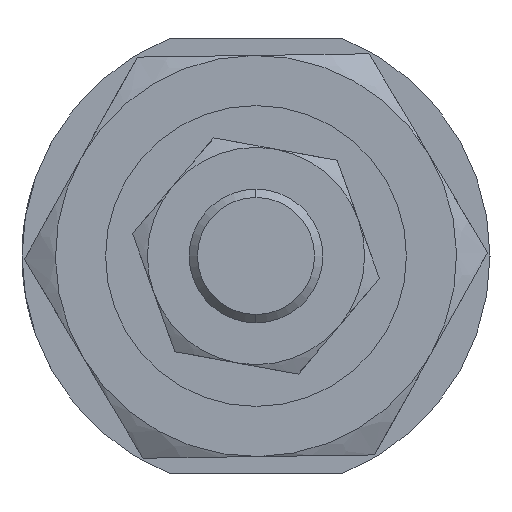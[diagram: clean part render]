
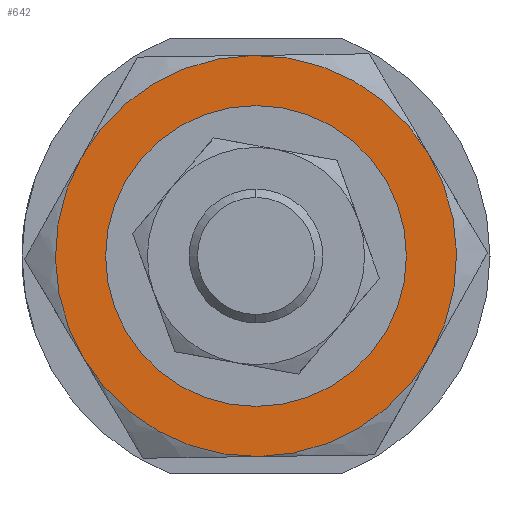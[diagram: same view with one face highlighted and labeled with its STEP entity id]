
A CAD part, left-side view. The second image highlights one B-rep face of the part: STEP entity #642.
In plain terms, the highlighted planar face has unit normal (-1, 0, 0) as drawn and (0, 0, -1) by its records, which use the part's own axes.
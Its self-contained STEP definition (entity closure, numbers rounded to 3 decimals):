
#20 = DIRECTION ( 'NONE',  ( 0., 0., 1. ) ) ;
#31 = DIRECTION ( 'NONE',  ( 0., 0., 1. ) ) ;
#34 = EDGE_LOOP ( 'NONE', ( #215, #2299 ) ) ;
#62 = ORIENTED_EDGE ( 'NONE', *, *, #1593, .F. ) ;
#169 = DIRECTION ( 'NONE',  ( 0., 0., 1. ) ) ;
#182 = AXIS2_PLACEMENT_3D ( 'NONE', #563, #309, #571 ) ;
#214 = DIRECTION ( 'NONE',  ( 0., 0., 1. ) ) ;
#215 = ORIENTED_EDGE ( 'NONE', *, *, #2730, .T. ) ;
#228 = DIRECTION ( 'NONE',  ( 1., 0., 0. ) ) ;
#235 = AXIS2_PLACEMENT_3D ( 'NONE', #1671, #1682, #1416 ) ;
#309 = DIRECTION ( 'NONE',  ( 0., 0., 1. ) ) ;
#323 = AXIS2_PLACEMENT_3D ( 'NONE', #1121, #169, #2048 ) ;
#324 = AXIS2_PLACEMENT_3D ( 'NONE', #1849, #1884, #1388 ) ;
#368 = VERTEX_POINT ( 'NONE', #1727 ) ;
#435 = VERTEX_POINT ( 'NONE', #2443 ) ;
#476 = CARTESIAN_POINT ( 'NONE',  ( 0., 0., -4. ) ) ;
#484 = AXIS2_PLACEMENT_3D ( 'NONE', #476, #1437, #2331 ) ;
#563 = CARTESIAN_POINT ( 'NONE',  ( 0., 0., -4. ) ) ;
#571 = DIRECTION ( 'NONE',  ( 1., 0., 0. ) ) ;
#602 = CIRCLE ( 'NONE', #2647, 12. ) ;
#621 = PLANE ( 'NONE',  #323 ) ;
#636 = CARTESIAN_POINT ( 'NONE',  ( 0., 0., -4. ) ) ;
#642 = ADVANCED_FACE ( 'NONE', ( #2692, #727 ), #621, .F. ) ;
#648 = AXIS2_PLACEMENT_3D ( 'NONE', #1936, #20, #750 ) ;
#652 = VERTEX_POINT ( 'NONE', #2747 ) ;
#727 = FACE_OUTER_BOUND ( 'NONE', #1238, .T. ) ;
#750 = DIRECTION ( 'NONE',  ( 1., 0., 0. ) ) ;
#827 = CIRCLE ( 'NONE', #1215, 12. ) ;
#829 = DIRECTION ( 'NONE',  ( 0., 0., 1. ) ) ;
#839 = CARTESIAN_POINT ( 'NONE',  ( 6., -10.392, -4. ) ) ;
#870 = EDGE_CURVE ( 'NONE', #435, #368, #909, .T. ) ;
#909 = CIRCLE ( 'NONE', #2104, 12. ) ;
#989 = ORIENTED_EDGE ( 'NONE', *, *, #1400, .F. ) ;
#1109 = VERTEX_POINT ( 'NONE', #839 ) ;
#1121 = CARTESIAN_POINT ( 'NONE',  ( 0., 0., -4. ) ) ;
#1174 = CARTESIAN_POINT ( 'NONE',  ( 0., 0., -4. ) ) ;
#1215 = AXIS2_PLACEMENT_3D ( 'NONE', #636, #829, #2477 ) ;
#1238 = EDGE_LOOP ( 'NONE', ( #2703, #2269, #2583, #62, #989, #2508 ) ) ;
#1388 = DIRECTION ( 'NONE',  ( 1., 0., 0. ) ) ;
#1396 = CIRCLE ( 'NONE', #235, 12. ) ;
#1400 = EDGE_CURVE ( 'NONE', #368, #652, #2028, .T. ) ;
#1416 = DIRECTION ( 'NONE',  ( 1., 0., 0. ) ) ;
#1437 = DIRECTION ( 'NONE',  ( 0., 0., 1. ) ) ;
#1550 = CIRCLE ( 'NONE', #182, 8.25 ) ;
#1593 = EDGE_CURVE ( 'NONE', #652, #2078, #827, .T. ) ;
#1625 = CIRCLE ( 'NONE', #324, 12. ) ;
#1634 = DIRECTION ( 'NONE',  ( 1., 0., 0. ) ) ;
#1671 = CARTESIAN_POINT ( 'NONE',  ( 0., 0., -4. ) ) ;
#1682 = DIRECTION ( 'NONE',  ( 0., 0., 1. ) ) ;
#1727 = CARTESIAN_POINT ( 'NONE',  ( -6., 10.392, -4. ) ) ;
#1777 = EDGE_CURVE ( 'NONE', #2850, #435, #1625, .T. ) ;
#1817 = EDGE_CURVE ( 'NONE', #2016, #2154, #2099, .T. ) ;
#1849 = CARTESIAN_POINT ( 'NONE',  ( 0., 0., -4. ) ) ;
#1884 = DIRECTION ( 'NONE',  ( 0., 0., 1. ) ) ;
#1936 = CARTESIAN_POINT ( 'NONE',  ( 0., 0., -4. ) ) ;
#2016 = VERTEX_POINT ( 'NONE', #2307 ) ;
#2028 = CIRCLE ( 'NONE', #648, 12. ) ;
#2048 = DIRECTION ( 'NONE',  ( 1., 0., 0. ) ) ;
#2078 = VERTEX_POINT ( 'NONE', #2316 ) ;
#2099 = CIRCLE ( 'NONE', #484, 8.25 ) ;
#2102 = CARTESIAN_POINT ( 'NONE',  ( 8.25, 0., -4. ) ) ;
#2104 = AXIS2_PLACEMENT_3D ( 'NONE', #3045, #214, #1634 ) ;
#2133 = EDGE_CURVE ( 'NONE', #2078, #1109, #602, .T. ) ;
#2154 = VERTEX_POINT ( 'NONE', #2102 ) ;
#2178 = EDGE_CURVE ( 'NONE', #1109, #2850, #1396, .T. ) ;
#2269 = ORIENTED_EDGE ( 'NONE', *, *, #2178, .F. ) ;
#2299 = ORIENTED_EDGE ( 'NONE', *, *, #1817, .T. ) ;
#2307 = CARTESIAN_POINT ( 'NONE',  ( -8.25, 0., -4. ) ) ;
#2316 = CARTESIAN_POINT ( 'NONE',  ( -6., -10.392, -4. ) ) ;
#2331 = DIRECTION ( 'NONE',  ( 1., 0., 0. ) ) ;
#2443 = CARTESIAN_POINT ( 'NONE',  ( 6., 10.392, -4. ) ) ;
#2465 = CARTESIAN_POINT ( 'NONE',  ( 12., 0., -4. ) ) ;
#2477 = DIRECTION ( 'NONE',  ( 1., 0., 0. ) ) ;
#2508 = ORIENTED_EDGE ( 'NONE', *, *, #870, .F. ) ;
#2583 = ORIENTED_EDGE ( 'NONE', *, *, #2133, .F. ) ;
#2647 = AXIS2_PLACEMENT_3D ( 'NONE', #1174, #31, #228 ) ;
#2692 = FACE_BOUND ( 'NONE', #34, .T. ) ;
#2703 = ORIENTED_EDGE ( 'NONE', *, *, #1777, .F. ) ;
#2730 = EDGE_CURVE ( 'NONE', #2154, #2016, #1550, .T. ) ;
#2747 = CARTESIAN_POINT ( 'NONE',  ( -12., 0., -4. ) ) ;
#2850 = VERTEX_POINT ( 'NONE', #2465 ) ;
#3045 = CARTESIAN_POINT ( 'NONE',  ( 0., 0., -4. ) ) ;
